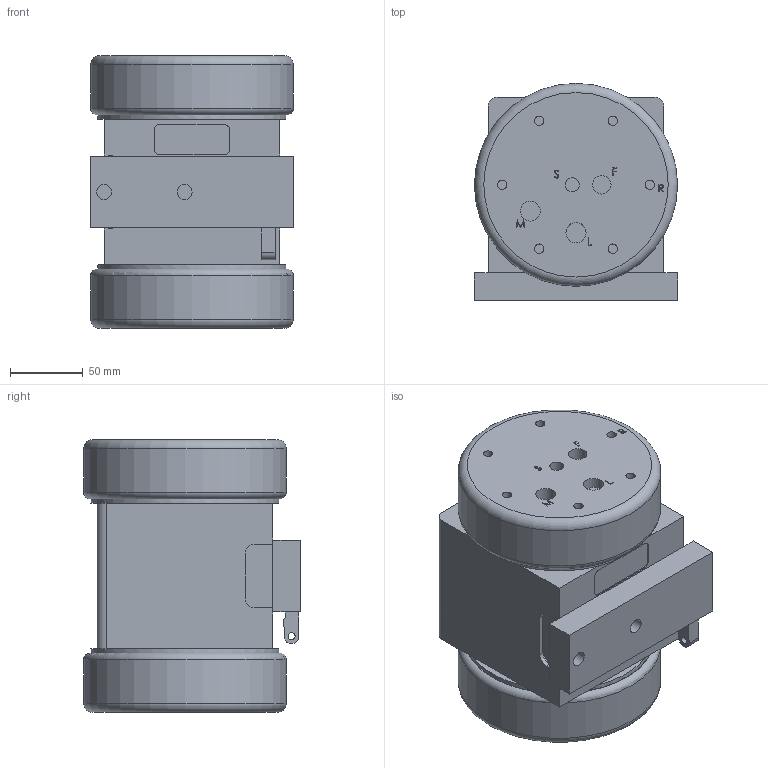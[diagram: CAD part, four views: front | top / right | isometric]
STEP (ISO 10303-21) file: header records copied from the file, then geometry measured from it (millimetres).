
FILE_DESCRIPTION (( 'STEP AP214' ), '1' );
FILE_NAME ('PSU030_without shuttle.STEP', '2013-07-25T17:14:43', ( '' ), ( '' ), 'SwSTEP 2.0', 'SolidWorks 2012', '' );
FILE_SCHEMA (( 'AUTOMOTIVE_DESIGN' ));
Length unit declared in the file: inch
Products named in the file (1): PSU030_without shuttle
Bounding box: 140.06 x 149.4 x 187.76 mm (x, y, z)
Volume: 2865607 mm3; surface area: 147806.6 mm2
Topology: 1 solids, 5 shells, 934 faces, 2441 edges, 1619 vertices
Faces by surface type: plane 694, bspline 170, cylinder 66, torus 4
Full cylindrical faces by diameter (mm): 3.302 x4, 4.445 x1, 4.902 x1, 6.477 x12, 9.627 x2, 10.312 x2, 12.725 x2, 13.557 x2, 13.934 x2, 15.938 x1, 16.701 x1, 22.225 x2, 38.1 x1, 129.819 x2, 139.7 x2
Entity records: 36839 total; most frequent: CARTESIAN_POINT 14530, ORIENTED_EDGE 4790, DIRECTION 3737, EDGE_CURVE 2395, LINE 1903, VECTOR 1903, VERTEX_POINT 1614, EDGE_LOOP 1085
